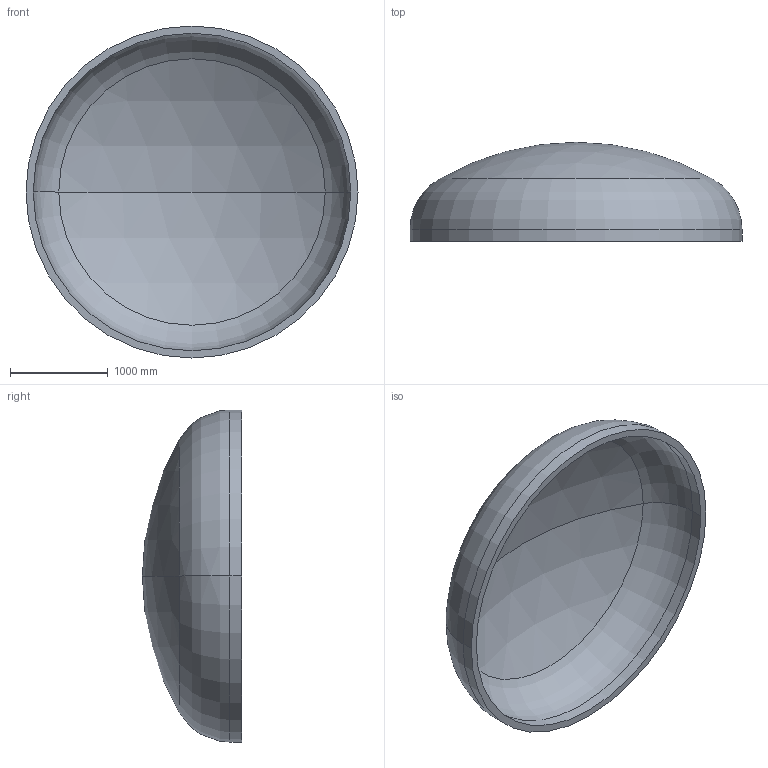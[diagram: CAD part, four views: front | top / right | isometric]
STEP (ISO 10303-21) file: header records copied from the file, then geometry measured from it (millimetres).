
FILE_DESCRIPTION (( 'STEP AP203' ), '1' );
FILE_NAME ('DIN 28013 Korbbogenform_-_Boden DIN 28013 - 3400 x 120 - I - s=74.step', '2016-07-01T19:43:52', ( '' ), ( '' ), 'SwSTEP 2.0', 'SolidWorks 2013', '' );
FILE_SCHEMA (( 'CONFIG_CONTROL_DESIGN' ));
Length unit declared in the file: millimetre
Products named in the file (1): DIN 28013 Korbbogenform_-_Boden DIN 28013 - 3400 x 120 - I - s=74
Bounding box: 3400 x 1015.1 x 3400 mm (x, y, z)
Volume: 997534141.4 mm3; surface area: 27745063.3 mm2
Topology: 1 solids, 1 shells, 13 faces, 24 edges, 14 vertices
Faces by surface type: torus 4, cylinder 4, sphere 4, plane 1
Entity records: 407 total; most frequent: DIRECTION 72, CARTESIAN_POINT 52, ORIENTED_EDGE 48, AXIS2_PLACEMENT_3D 34, EDGE_CURVE 24, CIRCLE 20, EDGE_LOOP 14, VERTEX_POINT 14
